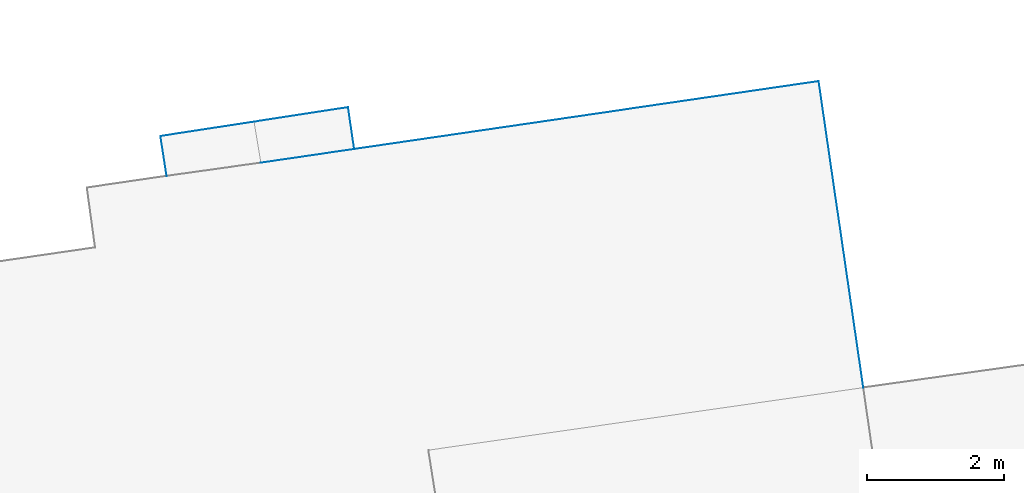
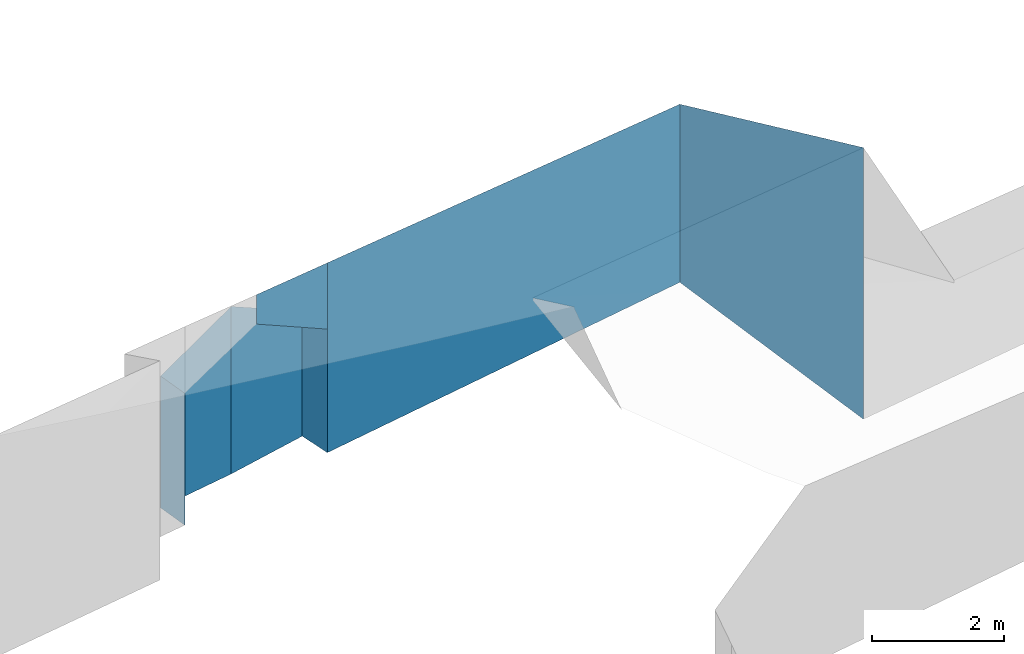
# Not in any storey, part 4 of 59: 7 walls.
"""IFC4 building model written with IfcOpenShell, lengths in metres."""

from ifc_helpers import new_model, entity, si_unit, converted_unit, origin, place, context, subcontext, project, spatial, face_set, surface_model, element, save


model = new_model("IFC4")

# Units and contexts
model_context = context("Model", 3, precision=1e-05, world=origin())
body_context = subcontext(model_context, "Body", "Model", "MODEL_VIEW")
ifc_project = project(units=[converted_unit("PLANEANGLEUNIT", "DEGREE", entity("IfcRatioMeasure", 0.0174532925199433), si_unit("PLANEANGLEUNIT", "RADIAN"), dimensions=[0, 0, 0, 0, 0, 0, 0]), si_unit("AREAUNIT", "SQUARE_METRE"), si_unit("LENGTHUNIT", "METRE")], contexts=[model_context])

# Site, building
site_placement = place(None, origin())
site = spatial("IfcSite", under=ifc_project, at=site_placement, Name="_site")
building_placement = place(site_placement, origin())
building = spatial("IfcBuilding", under=site, at=building_placement, Name="_building")

# Walls
wall_1_placement = place(building_placement, origin())
element("IfcWall", 1, at=wall_1_placement, inside=building, Name="Wall", PredefinedType="NOTDEFINED", context=body_context, shape_type="SurfaceModel", body=[
    surface_model("IfcFaceBasedSurfaceModel", [(90.34, 44.102, 222.825), (91.7, 44.301, 222.82), (91.7, 44.301, 221.59), (90.34, 44.102, 222.28)], [face_set([[[0, 1, 2, 3]]])]),
])
wall_2_placement = place(building_placement, origin())
element("IfcWall", 2, at=wall_2_placement, inside=building, Name="Wall", PredefinedType="NOTDEFINED", context=body_context, shape_type="SurfaceModel", body=[
    surface_model("IfcFaceBasedSurfaceModel", [(98.46, 45.289, 222.8), (99.11, 40.83, 224.47), (99.11, 40.83, 219.426), (98.46, 45.289, 219.492)], [face_set([[[0, 1, 2, 3]]])]),
])
wall_3_placement = place(building_placement, origin())
element("IfcWall", 3, at=wall_3_placement, inside=building, Name="Wall", PredefinedType="NOTDEFINED", context=body_context, shape_type="SurfaceModel", body=[
    surface_model("IfcFaceBasedSurfaceModel", [(91.7, 44.301, 222.82), (98.46, 45.289, 222.8), (98.46, 45.289, 219.492), (91.7, 44.301, 219.296)], [face_set([[[0, 1, 2, 3]]])]),
])
wall_4_placement = place(building_placement, origin())
element("IfcWall", 4, at=wall_4_placement, inside=building, Name="Wall", PredefinedType="NOTDEFINED", context=body_context, shape_type="SurfaceModel", body=[
    surface_model("IfcFaceBasedSurfaceModel", [(90.24, 44.699, 222.28), (91.61, 44.91, 221.59), (91.61, 44.91, 219.265), (90.24, 44.699, 219.17)], [face_set([[[0, 1, 2, 3]]])]),
])
wall_5_placement = place(building_placement, origin())
element("IfcWall", 5, at=wall_5_placement, inside=building, Name="Wall", PredefinedType="NOTDEFINED", context=body_context, shape_type="SurfaceModel", body=[
    surface_model("IfcFaceBasedSurfaceModel", [(88.88, 44.49, 221.59), (90.24, 44.699, 222.28), (90.24, 44.699, 219.17), (88.88, 44.49, 219.145)], [face_set([[[0, 1, 2, 3]]])]),
])
wall_6_placement = place(building_placement, origin())
element("IfcWall", 6, at=wall_6_placement, inside=building, Name="Wall", PredefinedType="NOTDEFINED", context=body_context, shape_type="SurfaceModel", body=[
    surface_model("IfcFaceBasedSurfaceModel", [(91.61, 44.91, 221.59), (91.7, 44.301, 221.59), (91.7, 44.301, 219.296), (91.61, 44.91, 219.265)], [face_set([[[0, 1, 2, 3]]])]),
])
wall_7_placement = place(building_placement, origin())
element("IfcWall", 7, at=wall_7_placement, inside=building, Name="Wall", PredefinedType="NOTDEFINED", context=body_context, shape_type="SurfaceModel", body=[
    surface_model("IfcFaceBasedSurfaceModel", [(88.97, 43.91, 221.59), (88.88, 44.49, 221.59), (88.88, 44.49, 219.145), (88.97, 43.91, 219.142)], [face_set([[[0, 1, 2, 3]]])]),
])

save(model, "model.ifc")
